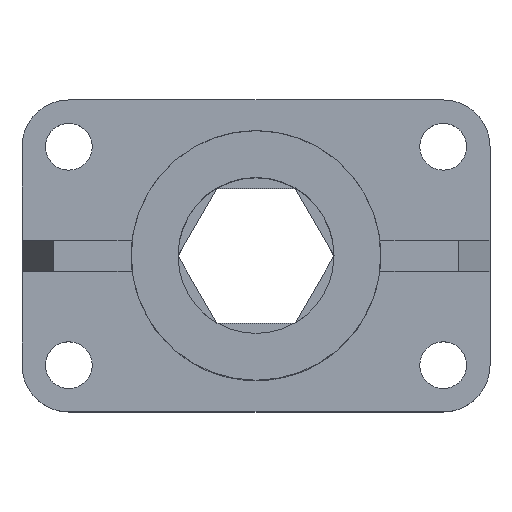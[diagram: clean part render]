
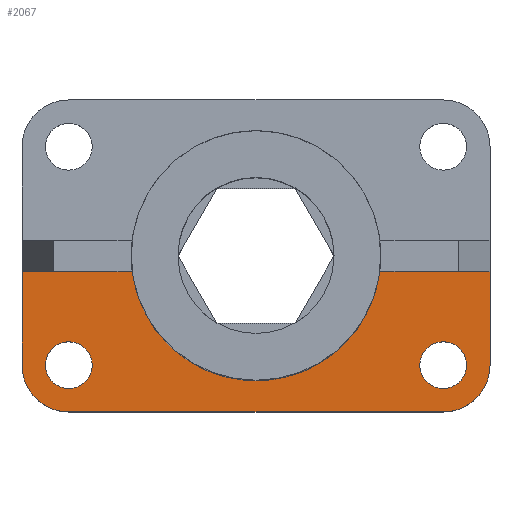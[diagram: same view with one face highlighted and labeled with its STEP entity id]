
A CAD part, top view. The second image highlights one B-rep face of the part: STEP entity #2067.
In plain terms, the highlighted planar face has unit normal (0, 0, 1).
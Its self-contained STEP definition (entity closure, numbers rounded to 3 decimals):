
#59=CARTESIAN_POINT('',(-39.686,-5.,0.));
#60=VERTEX_POINT('',#59);
#67=CARTESIAN_POINT('',(39.686,-5.,0.));
#68=VERTEX_POINT('',#67);
#69=CARTESIAN_POINT('',(0.,0.,0.));
#70=DIRECTION('',(0.,0.,1.));
#71=DIRECTION('',(-1.,0.,0.));
#72=AXIS2_PLACEMENT_3D('',#69,#70,#71);
#73=CIRCLE('',#72,40.);
#74=EDGE_CURVE('',#60,#68,#73,.T.);
#1963=CARTESIAN_POINT('',(0.,0.,0.));
#1964=DIRECTION('',(0.,0.,1.));
#1965=DIRECTION('',(-1.,0.,0.));
#1966=AXIS2_PLACEMENT_3D('',#1963,#1964,#1965);
#1967=PLANE('',#1966);
#1968=CARTESIAN_POINT('',(67.5,-35.,0.));
#1969=VERTEX_POINT('',#1968);
#1970=CARTESIAN_POINT('',(52.5,-35.,0.));
#1971=VERTEX_POINT('',#1970);
#1972=CARTESIAN_POINT('',(60.,-35.,0.));
#1973=DIRECTION('',(0.,0.,1.));
#1974=DIRECTION('',(-1.,0.,0.));
#1975=AXIS2_PLACEMENT_3D('',#1972,#1973,#1974);
#1976=CIRCLE('',#1975,7.5);
#1977=EDGE_CURVE('',#1969,#1971,#1976,.T.);
#1978=ORIENTED_EDGE('',*,*,#1977,.F.);
#1979=CARTESIAN_POINT('',(60.,-35.,0.));
#1980=DIRECTION('',(0.,0.,1.));
#1981=DIRECTION('',(-1.,0.,0.));
#1982=AXIS2_PLACEMENT_3D('',#1979,#1980,#1981);
#1983=CIRCLE('',#1982,7.5);
#1984=EDGE_CURVE('',#1971,#1969,#1983,.T.);
#1985=ORIENTED_EDGE('',*,*,#1984,.F.);
#1986=EDGE_LOOP('',(#1978,#1985));
#1987=FACE_BOUND('',#1986,.T.);
#1988=CARTESIAN_POINT('',(-52.5,-35.,0.));
#1989=VERTEX_POINT('',#1988);
#1990=CARTESIAN_POINT('',(-67.5,-35.,0.));
#1991=VERTEX_POINT('',#1990);
#1992=CARTESIAN_POINT('',(-60.,-35.,0.));
#1993=DIRECTION('',(0.,0.,1.));
#1994=DIRECTION('',(-1.,0.,0.));
#1995=AXIS2_PLACEMENT_3D('',#1992,#1993,#1994);
#1996=CIRCLE('',#1995,7.5);
#1997=EDGE_CURVE('',#1989,#1991,#1996,.T.);
#1998=ORIENTED_EDGE('',*,*,#1997,.F.);
#1999=CARTESIAN_POINT('',(-60.,-35.,0.));
#2000=DIRECTION('',(0.,0.,1.));
#2001=DIRECTION('',(-1.,0.,0.));
#2002=AXIS2_PLACEMENT_3D('',#1999,#2000,#2001);
#2003=CIRCLE('',#2002,7.5);
#2004=EDGE_CURVE('',#1991,#1989,#2003,.T.);
#2005=ORIENTED_EDGE('',*,*,#2004,.F.);
#2006=EDGE_LOOP('',(#1998,#2005));
#2007=FACE_BOUND('',#2006,.T.);
#2008=CARTESIAN_POINT('',(75.,-35.,0.));
#2009=VERTEX_POINT('',#2008);
#2010=CARTESIAN_POINT('',(75.,-5.,0.));
#2011=VERTEX_POINT('',#2010);
#2012=CARTESIAN_POINT('',(75.,-35.,0.));
#2013=DIRECTION('',(0.,1.,0.));
#2014=VECTOR('',#2013,30.);
#2015=LINE('',#2012,#2014);
#2016=EDGE_CURVE('',#2009,#2011,#2015,.T.);
#2017=ORIENTED_EDGE('',*,*,#2016,.T.);
#2018=CARTESIAN_POINT('',(75.,-5.,0.));
#2019=DIRECTION('',(-1.,0.,0.));
#2020=VECTOR('',#2019,35.314);
#2021=LINE('',#2018,#2020);
#2022=EDGE_CURVE('',#2011,#68,#2021,.T.);
#2023=ORIENTED_EDGE('',*,*,#2022,.T.);
#2024=ORIENTED_EDGE('',*,*,#74,.F.);
#2025=CARTESIAN_POINT('',(-75.,-5.,0.));
#2026=VERTEX_POINT('',#2025);
#2027=CARTESIAN_POINT('',(-39.686,-5.,0.));
#2028=DIRECTION('',(-1.,0.,0.));
#2029=VECTOR('',#2028,35.314);
#2030=LINE('',#2027,#2029);
#2031=EDGE_CURVE('',#60,#2026,#2030,.T.);
#2032=ORIENTED_EDGE('',*,*,#2031,.T.);
#2033=CARTESIAN_POINT('',(-75.,-35.,0.));
#2034=VERTEX_POINT('',#2033);
#2035=CARTESIAN_POINT('',(-75.,-5.,0.));
#2036=DIRECTION('',(-0.,-1.,0.));
#2037=VECTOR('',#2036,30.);
#2038=LINE('',#2035,#2037);
#2039=EDGE_CURVE('',#2026,#2034,#2038,.T.);
#2040=ORIENTED_EDGE('',*,*,#2039,.T.);
#2041=CARTESIAN_POINT('',(-60.,-50.,0.));
#2042=VERTEX_POINT('',#2041);
#2043=CARTESIAN_POINT('',(-60.,-35.,0.));
#2044=DIRECTION('',(0.,0.,1.));
#2045=DIRECTION('',(-1.,0.,0.));
#2046=AXIS2_PLACEMENT_3D('',#2043,#2044,#2045);
#2047=CIRCLE('',#2046,15.);
#2048=EDGE_CURVE('',#2034,#2042,#2047,.T.);
#2049=ORIENTED_EDGE('',*,*,#2048,.T.);
#2050=CARTESIAN_POINT('',(60.,-50.,0.));
#2051=VERTEX_POINT('',#2050);
#2052=CARTESIAN_POINT('',(-60.,-50.,0.));
#2053=DIRECTION('',(1.,-0.,0.));
#2054=VECTOR('',#2053,120.);
#2055=LINE('',#2052,#2054);
#2056=EDGE_CURVE('',#2042,#2051,#2055,.T.);
#2057=ORIENTED_EDGE('',*,*,#2056,.T.);
#2058=CARTESIAN_POINT('',(60.,-35.,0.));
#2059=DIRECTION('',(0.,0.,1.));
#2060=DIRECTION('',(-1.,0.,0.));
#2061=AXIS2_PLACEMENT_3D('',#2058,#2059,#2060);
#2062=CIRCLE('',#2061,15.);
#2063=EDGE_CURVE('',#2051,#2009,#2062,.T.);
#2064=ORIENTED_EDGE('',*,*,#2063,.T.);
#2065=EDGE_LOOP('',(#2017,#2023,#2024,#2032,#2040,#2049,#2057,#2064));
#2066=FACE_BOUND('',#2065,.T.);
#2067=ADVANCED_FACE('',(#1987,#2007,#2066),#1967,.T.);
